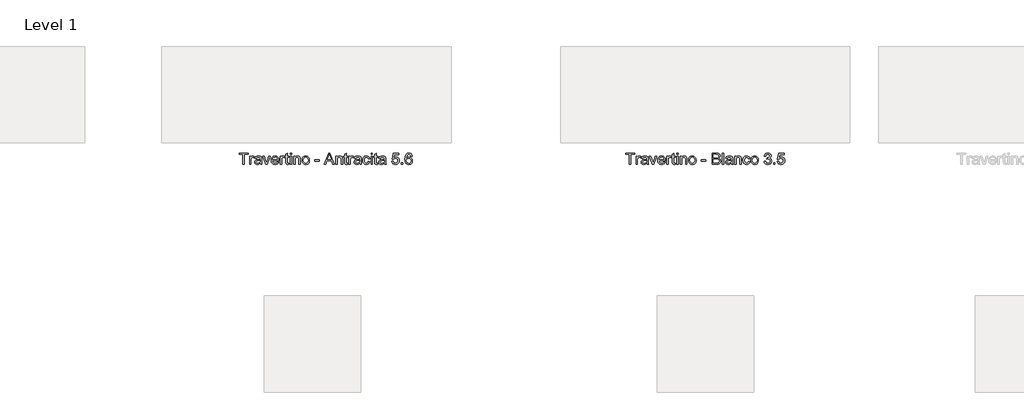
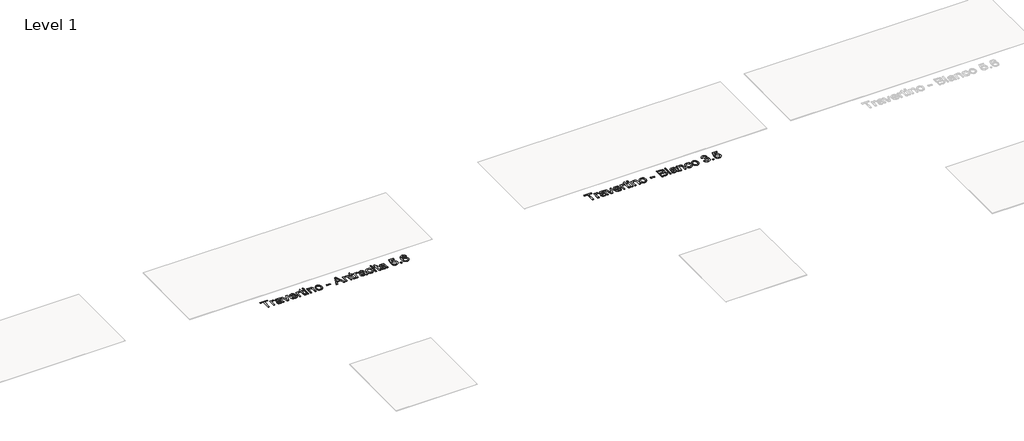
# One storey, part 17 of 80: 2 proxies.
"""IFC4 building model written with IfcOpenShell, lengths in millimetres."""

from ifc_helpers import new_model, si_unit, origin, origin_with_axes, place, context, project, spatial, polyline, outline, extrude, element, save

model = new_model("IFC4")

# Units and contexts
model_context = context("Model", 3, world=origin())
ifc_project = project(units=[si_unit("LENGTHUNIT", "METRE", prefix="MILLI")], contexts=[model_context])

# Site, building, storey
site = spatial("IfcSite", under=ifc_project)
building = spatial("IfcBuilding", under=site)
storey = spatial("IfcBuildingStorey", under=building, Name="Level 1", Elevation=0.0)

# Proxies
placement = place(None, origin())
element("IfcBuildingElementProxy", 1, Name="24\" Arial", ObjectType="24\" Arial", at=placement, inside=storey, context=model_context, shape_type="SweptSolid", body=[
    extrude(outline(polyline([(-23304.8256117, -7643.0201601), (-23304.8256117, -7539.6355447), (-23343.5948424, -7539.6355447), (-23343.5948424, -7524.8663139), (-23251.2871501, -7524.8663139), (-23251.2871501, -7539.6355447), (-23290.0563809, -7539.6355447), (-23290.0563809, -7643.0201601), (-23304.8256117, -7643.0201601)])), origin_with_axes(), (0.0, 0.0, 1.0), 2.0),
    extrude(outline(polyline([(-23236.5179193, -7643.0201601), (-23236.5179193, -7556.2509293), (-23223.5948424, -7556.2509293), (-23223.5948424, -7569.0874678), (-23214.4217655, -7557.2605447), (-23205.1909963, -7554.4047755), (-23190.3640732, -7558.9624678), (-23195.2967655, -7572.2028524), (-23205.6813809, -7569.1740062), (-23214.0323424, -7572.0874678), (-23219.3544578, -7580.1643908), (-23221.7486886, -7597.4143908), (-23221.7486886, -7643.0201601), (-23236.5179193, -7643.0201601)])), origin_with_axes(), (0.0, 0.0, 1.0), 2.0),
    extrude(outline(polyline([(-23125.7486886, -7631.943237), (-23140.070804, -7641.9528524), (-23155.8929193, -7644.8663139), (-23168.2354674, -7643.1139101), (-23177.3400347, -7637.8566985), (-23182.9542174, -7629.8735255), (-23184.8256117, -7619.943237), (-23181.9986886, -7608.2605447), (-23174.570804, -7599.7797755), (-23164.2294578, -7594.9336216), (-23151.4506117, -7592.7124678), (-23125.835227, -7587.6355447), (-23125.7486886, -7584.3470831), (-23129.8159963, -7573.443237), (-23146.1429193, -7569.1740062), (-23161.085227, -7572.0153524), (-23168.210227, -7582.0970831), (-23182.9794578, -7580.2509293), (-23176.5900347, -7565.8278524), (-23163.7246501, -7557.3759293), (-23144.2390732, -7554.4047755), (-23126.3400347, -7557.0297755), (-23116.2294578, -7563.6211216), (-23111.7006117, -7573.6451601), (-23110.9794578, -7586.568237), (-23110.9794578, -7604.943237), (-23110.2294578, -7630.6018908), (-23107.2871501, -7643.0201601), (-23122.0563809, -7643.0201601), (-23125.7486886, -7631.943237)]), holes=[polyline([(-23125.7486886, -7602.4047755), (-23149.5756117, -7606.9336216), (-23162.2823424, -7609.3278524), (-23168.0371501, -7613.2220831), (-23170.0563809, -7618.9047755), (-23165.6573424, -7626.8951601), (-23152.7486886, -7630.0970831), (-23137.8063809, -7626.5634293), (-23128.1717655, -7618.0105447), (-23125.835227, -7606.5874678), (-23125.7486886, -7602.4047755)])]), origin_with_axes(), (0.0, 0.0, 1.0), 2.0),
    extrude(outline(polyline([(-23069.383304, -7643.0201601), (-23099.9025347, -7556.2509293), (-23084.2679193, -7556.2509293), (-23065.7775347, -7608.2316985), (-23060.210227, -7625.7124678), (-23054.758304, -7609.2124678), (-23036.1525347, -7556.2509293), (-23020.5179193, -7556.2509293), (-23050.6621501, -7643.0201601), (-23069.383304, -7643.0201601)])), origin_with_axes(), (0.0, 0.0, 1.0), 2.0),
    extrude(outline(polyline([(-22946.8448424, -7617.1740062), (-22932.3640732, -7619.0201601), (-22937.5816213, -7629.9312178), (-22945.9073424, -7638.0874678), (-22957.1537367, -7643.1716024), (-22971.133304, -7644.8663139), (-22988.4626309, -7641.9420351), (-23001.7967655, -7633.1691985), (-23010.2991693, -7619.1175158), (-23013.133304, -7600.3566985), (-23010.2703232, -7580.9648716), (-23001.6813809, -7566.4624678), (-22988.5275347, -7557.4191985), (-22971.9698424, -7554.4047755), (-22955.9277751, -7557.411987), (-22943.1092655, -7566.4336216), (-22934.7042174, -7580.9071793), (-22931.9025347, -7600.2701601), (-22931.9890732, -7604.2509293), (-22998.3640732, -7604.2509293), (-22995.8075828, -7615.3062178), (-22989.8688809, -7623.4336216), (-22981.2979674, -7628.4312178), (-22970.8448424, -7630.0970831), (-22956.3640732, -7627.0105447), (-22946.8448424, -7617.1740062)]), holes=[polyline([(-22998.3640732, -7589.4816985), (-22946.6717655, -7589.4816985), (-22952.585227, -7576.0970831), (-22961.195804, -7570.9047755), (-22972.0275347, -7569.1740062), (-22990.2150347, -7574.6980447), (-22995.9373905, -7581.1559774), (-22998.3640732, -7589.4816985)])]), origin_with_axes(), (0.0, 0.0, 1.0), 2.0),
    extrude(outline(polyline([(-22917.133304, -7643.0201601), (-22917.133304, -7556.2509293), (-22904.210227, -7556.2509293), (-22904.210227, -7569.0874678), (-22895.0371501, -7557.2605447), (-22885.8063809, -7554.4047755), (-22870.9794578, -7558.9624678), (-22875.9121501, -7572.2028524), (-22886.2967655, -7569.1740062), (-22894.647727, -7572.0874678), (-22899.9698424, -7580.1643908), (-22902.3640732, -7597.4143908), (-22902.3640732, -7643.0201601), (-22917.133304, -7643.0201601)])), origin_with_axes(), (0.0, 0.0, 1.0), 2.0),
    extrude(outline(polyline([(-22830.3640732, -7630.7028524), (-22828.5179193, -7643.4528524), (-22839.5659963, -7644.8663139), (-22851.9409963, -7642.4143908), (-22858.1140732, -7635.9816985), (-22859.9025347, -7619.2220831), (-22859.9025347, -7571.0201601), (-22870.9794578, -7571.0201601), (-22870.9794578, -7556.2509293), (-22859.9025347, -7556.2509293), (-22859.9025347, -7535.1643908), (-22845.133304, -7526.4816985), (-22845.133304, -7556.2509293), (-22830.3640732, -7556.2509293), (-22830.3640732, -7571.0201601), (-22845.133304, -7571.0201601), (-22845.133304, -7618.7893908), (-22844.3544578, -7626.4047755), (-22841.8304193, -7629.1018908), (-22836.7967655, -7630.0970831), (-22830.3640732, -7630.7028524)])), origin_with_axes(), (0.0, 0.0, 1.0), 2.0),
    extrude(outline(polyline([(-22815.5948424, -7539.6355447), (-22815.5948424, -7524.8663139), (-22800.8256117, -7524.8663139), (-22800.8256117, -7539.6355447), (-22815.5948424, -7539.6355447)])), origin_with_axes(), (0.0, 0.0, 1.0), 2.0),
    extrude(outline(polyline([(-22815.5948424, -7643.0201601), (-22815.5948424, -7556.2509293), (-22800.8256117, -7556.2509293), (-22800.8256117, -7643.0201601), (-22815.5948424, -7643.0201601)])), origin_with_axes(), (0.0, 0.0, 1.0), 2.0),
    extrude(outline(polyline([(-22778.6717655, -7643.0201601), (-22778.6717655, -7556.2509293), (-22763.9025347, -7556.2509293), (-22763.9025347, -7568.3663139), (-22752.6092655, -7557.8951601), (-22737.1909963, -7554.4047755), (-22723.2438809, -7557.2172755), (-22713.7246501, -7564.6018908), (-22709.2967655, -7575.4624678), (-22708.5179193, -7589.7413139), (-22708.5179193, -7643.0201601), (-22723.2871501, -7643.0201601), (-22723.2871501, -7591.7316985), (-22724.9890732, -7578.6643908), (-22731.0034963, -7571.755737), (-22741.1429193, -7569.1740062), (-22757.1669578, -7574.9720831), (-22762.2186405, -7583.3735255), (-22763.9025347, -7596.9816985), (-22763.9025347, -7643.0201601), (-22778.6717655, -7643.0201601)])), origin_with_axes(), (0.0, 0.0, 1.0), 2.0),
    extrude(outline(polyline([(-22691.9025347, -7599.6355447), (-22688.7078232, -7578.7148716), (-22679.1236886, -7564.0105447), (-22667.2823424, -7556.8062178), (-22653.1044578, -7554.4047755), (-22637.5888328, -7557.3290543), (-22625.195804, -7566.1018908), (-22617.0720059, -7580.0309774), (-22614.3640732, -7598.4240062), (-22619.1525347, -7624.7028524), (-22633.0996501, -7639.5730447), (-22653.1044578, -7644.8663139), (-22668.8075828, -7641.9528524), (-22681.1861886, -7633.2124678), (-22689.2234482, -7618.9913139), (-22691.9025347, -7599.6355447)]), holes=[polyline([(-22677.133304, -7599.6066985), (-22675.4241693, -7612.9732851), (-22670.2967655, -7622.4961216), (-22662.5804193, -7628.1968428), (-22653.1044578, -7630.0970831), (-22643.6717655, -7628.1860255), (-22635.9698424, -7622.4528524), (-22630.8424386, -7612.8038139), (-22629.133304, -7599.1451601), (-22630.8532559, -7586.1679966), (-22636.0131117, -7576.7749678), (-22643.725852, -7571.0742466), (-22653.1044578, -7569.1740062), (-22662.5804193, -7571.0670351), (-22670.2967655, -7576.7461216), (-22675.4241693, -7586.2473235), (-22677.133304, -7599.6066985)])]), origin_with_axes(), (0.0, 0.0, 1.0), 2.0),
    extrude(outline(polyline([(-22558.9794578, -7607.943237), (-22558.9794578, -7593.1740062), (-22512.8256117, -7593.1740062), (-22512.8256117, -7607.943237), (-22558.9794578, -7607.943237)])), origin_with_axes(), (0.0, 0.0, 1.0), 2.0),
    extrude(outline(polyline([(-22461.9698424, -7643.0201601), (-22414.8063809, -7524.8663139), (-22402.2294578, -7524.8663139), (-22355.0659963, -7643.0201601), (-22370.6717655, -7643.0201601), (-22384.2006117, -7606.0970831), (-22432.8640732, -7606.0970831), (-22446.3640732, -7643.0201601), (-22461.9698424, -7643.0201601)]), holes=[polyline([(-22427.4409963, -7591.3278524), (-22389.5948424, -7591.3278524), (-22400.2390732, -7562.2797755), (-22408.5179193, -7539.6355447), (-22415.8736886, -7559.7413139), (-22427.4409963, -7591.3278524)])]), origin_with_axes(), (0.0, 0.0, 1.0), 2.0),
    extrude(outline(polyline([(-22341.133304, -7643.0201601), (-22341.133304, -7556.2509293), (-22326.3640732, -7556.2509293), (-22326.3640732, -7568.3663139), (-22315.070804, -7557.8951601), (-22299.6525347, -7554.4047755), (-22285.7054193, -7557.2172755), (-22276.1861886, -7564.6018908), (-22271.758304, -7575.4624678), (-22270.9794578, -7589.7413139), (-22270.9794578, -7643.0201601), (-22285.7486886, -7643.0201601), (-22285.7486886, -7591.7316985), (-22287.4506117, -7578.6643908), (-22293.4650347, -7571.755737), (-22303.6044578, -7569.1740062), (-22319.6284963, -7574.9720831), (-22324.680179, -7583.3735255), (-22326.3640732, -7596.9816985), (-22326.3640732, -7643.0201601), (-22341.133304, -7643.0201601)])), origin_with_axes(), (0.0, 0.0, 1.0), 2.0),
    extrude(outline(polyline([(-22219.2871501, -7630.7028524), (-22217.4409963, -7643.4528524), (-22228.4890732, -7644.8663139), (-22240.8640732, -7642.4143908), (-22247.0371501, -7635.9816985), (-22248.8256117, -7619.2220831), (-22248.8256117, -7571.0201601), (-22259.9025347, -7571.0201601), (-22259.9025347, -7556.2509293), (-22248.8256117, -7556.2509293), (-22248.8256117, -7535.1643908), (-22234.0563809, -7526.4816985), (-22234.0563809, -7556.2509293), (-22219.2871501, -7556.2509293), (-22219.2871501, -7571.0201601), (-22234.0563809, -7571.0201601), (-22234.0563809, -7618.7893908), (-22233.2775347, -7626.4047755), (-22230.7534963, -7629.1018908), (-22225.7198424, -7630.0970831), (-22219.2871501, -7630.7028524)])), origin_with_axes(), (0.0, 0.0, 1.0), 2.0),
    extrude(outline(polyline([(-22204.5179193, -7643.0201601), (-22204.5179193, -7556.2509293), (-22191.5948424, -7556.2509293), (-22191.5948424, -7569.0874678), (-22182.4217655, -7557.2605447), (-22173.1909963, -7554.4047755), (-22158.3640732, -7558.9624678), (-22163.2967655, -7572.2028524), (-22173.6813809, -7569.1740062), (-22182.0323424, -7572.0874678), (-22187.3544578, -7580.1643908), (-22189.7486886, -7597.4143908), (-22189.7486886, -7643.0201601), (-22204.5179193, -7643.0201601)])), origin_with_axes(), (0.0, 0.0, 1.0), 2.0),
    extrude(outline(polyline([(-22093.7486886, -7631.943237), (-22108.070804, -7641.9528524), (-22123.8929193, -7644.8663139), (-22136.2354674, -7643.1139101), (-22145.3400347, -7637.8566985), (-22150.9542174, -7629.8735255), (-22152.8256117, -7619.943237), (-22149.9986886, -7608.2605447), (-22142.570804, -7599.7797755), (-22132.2294578, -7594.9336216), (-22119.4506117, -7592.7124678), (-22093.835227, -7587.6355447), (-22093.7486886, -7584.3470831), (-22097.8159963, -7573.443237), (-22114.1429193, -7569.1740062), (-22129.085227, -7572.0153524), (-22136.210227, -7582.0970831), (-22150.9794578, -7580.2509293), (-22144.5900347, -7565.8278524), (-22131.7246501, -7557.3759293), (-22112.2390732, -7554.4047755), (-22094.3400347, -7557.0297755), (-22084.2294578, -7563.6211216), (-22079.7006117, -7573.6451601), (-22078.9794578, -7586.568237), (-22078.9794578, -7604.943237), (-22078.2294578, -7630.6018908), (-22075.2871501, -7643.0201601), (-22090.0563809, -7643.0201601), (-22093.7486886, -7631.943237)]), holes=[polyline([(-22093.7486886, -7602.4047755), (-22117.5756117, -7606.9336216), (-22130.2823424, -7609.3278524), (-22136.0371501, -7613.2220831), (-22138.0563809, -7618.9047755), (-22133.6573424, -7626.8951601), (-22120.7486886, -7630.0970831), (-22105.8063809, -7626.5634293), (-22096.1717655, -7618.0105447), (-22093.835227, -7606.5874678), (-22093.7486886, -7602.4047755)])]), origin_with_axes(), (0.0, 0.0, 1.0), 2.0),
    extrude(outline(polyline([(-22003.2871501, -7611.6355447), (-21988.5179193, -7613.4816985), (-21992.6357078, -7626.6175158), (-22000.3736886, -7636.5441985), (-22011.0034963, -7642.7857851), (-22023.7967655, -7644.8663139), (-22039.507102, -7641.9636697), (-22051.7919578, -7633.255737), (-22059.7210443, -7619.1247274), (-22062.3640732, -7599.9528524), (-22057.8496501, -7575.4191985), (-22052.1525347, -7566.2208812), (-22044.0900347, -7559.6547755), (-22023.9986886, -7554.4047755), (-22011.5191213, -7556.2076601), (-22001.5419578, -7561.6163139), (-21994.3845059, -7570.3422755), (-21990.3640732, -7582.0970831), (-22005.133304, -7583.943237), (-22011.9842655, -7572.880737), (-22023.883304, -7569.1740062), (-22033.4277751, -7570.9985255), (-22041.0034963, -7576.4720831), (-22045.9470059, -7585.8903524), (-22047.5948424, -7599.5490062), (-22045.9830636, -7613.3915543), (-22041.147727, -7622.8422755), (-22033.7090251, -7628.2833812), (-22024.2871501, -7630.0970831), (-22010.3688809, -7625.568237), (-22003.2871501, -7611.6355447)])), origin_with_axes(), (0.0, 0.0, 1.0), 2.0),
    extrude(outline(polyline([(-21975.5948424, -7539.6355447), (-21975.5948424, -7524.8663139), (-21960.8256117, -7524.8663139), (-21960.8256117, -7539.6355447), (-21975.5948424, -7539.6355447)])), origin_with_axes(), (0.0, 0.0, 1.0), 2.0),
    extrude(outline(polyline([(-21975.5948424, -7643.0201601), (-21975.5948424, -7556.2509293), (-21960.8256117, -7556.2509293), (-21960.8256117, -7643.0201601), (-21975.5948424, -7643.0201601)])), origin_with_axes(), (0.0, 0.0, 1.0), 2.0),
    extrude(outline(polyline([(-21907.2871501, -7630.7028524), (-21905.4409963, -7643.4528524), (-21916.4890732, -7644.8663139), (-21928.8640732, -7642.4143908), (-21935.0371501, -7635.9816985), (-21936.8256117, -7619.2220831), (-21936.8256117, -7571.0201601), (-21947.9025347, -7571.0201601), (-21947.9025347, -7556.2509293), (-21936.8256117, -7556.2509293), (-21936.8256117, -7535.1643908), (-21922.0563809, -7526.4816985), (-21922.0563809, -7556.2509293), (-21907.2871501, -7556.2509293), (-21907.2871501, -7571.0201601), (-21922.0563809, -7571.0201601), (-21922.0563809, -7618.7893908), (-21921.2775347, -7626.4047755), (-21918.7534963, -7629.1018908), (-21913.7198424, -7630.0970831), (-21907.2871501, -7630.7028524)])), origin_with_axes(), (0.0, 0.0, 1.0), 2.0),
    extrude(outline(polyline([(-21837.133304, -7631.943237), (-21851.4554193, -7641.9528524), (-21867.2775347, -7644.8663139), (-21879.6200828, -7643.1139101), (-21888.7246501, -7637.8566985), (-21894.3388328, -7629.8735255), (-21896.210227, -7619.943237), (-21893.383304, -7608.2605447), (-21885.9554193, -7599.7797755), (-21875.6140732, -7594.9336216), (-21862.835227, -7592.7124678), (-21837.2198424, -7587.6355447), (-21837.133304, -7584.3470831), (-21841.2006117, -7573.443237), (-21857.5275347, -7569.1740062), (-21872.4698424, -7572.0153524), (-21879.5948424, -7582.0970831), (-21894.3640732, -7580.2509293), (-21887.9746501, -7565.8278524), (-21875.1092655, -7557.3759293), (-21855.6236886, -7554.4047755), (-21837.7246501, -7557.0297755), (-21827.6140732, -7563.6211216), (-21823.085227, -7573.6451601), (-21822.3640732, -7586.568237), (-21822.3640732, -7604.943237), (-21821.6140732, -7630.6018908), (-21818.6717655, -7643.0201601), (-21833.4409963, -7643.0201601), (-21837.133304, -7631.943237)]), holes=[polyline([(-21837.133304, -7602.4047755), (-21860.960227, -7606.9336216), (-21873.6669578, -7609.3278524), (-21879.4217655, -7613.2220831), (-21881.4409963, -7618.9047755), (-21877.0419578, -7626.8951601), (-21864.133304, -7630.0970831), (-21849.1909963, -7626.5634293), (-21839.5563809, -7618.0105447), (-21837.2198424, -7606.5874678), (-21837.133304, -7602.4047755)])]), origin_with_axes(), (0.0, 0.0, 1.0), 2.0),
    extrude(outline(polyline([(-21759.5948424, -7611.6355447), (-21744.8256117, -7609.7893908), (-21737.383304, -7625.005737), (-21721.9506117, -7630.0970831), (-21711.3640732, -7628.3266505), (-21703.4313809, -7623.0153524), (-21698.477054, -7614.7761697), (-21696.8256117, -7604.2220831), (-21698.3724867, -7594.2845831), (-21703.0131117, -7586.6836216), (-21710.7835443, -7581.8591024), (-21721.7198424, -7580.2509293), (-21734.6861886, -7582.818237), (-21742.9794578, -7589.4816985), (-21757.7486886, -7587.6355447), (-21744.8256117, -7526.7124678), (-21687.5948424, -7526.7124678), (-21687.5948424, -7541.4816985), (-21732.883304, -7541.4816985), (-21739.2006117, -7574.0201601), (-21728.6501309, -7567.6163139), (-21717.5948424, -7565.4816985), (-21703.7955636, -7568.1283331), (-21692.3400347, -7576.068237), (-21684.6272943, -7588.1691985), (-21682.0563809, -7603.2990062), (-21684.3712847, -7618.068237), (-21691.3159963, -7630.7028524), (-21704.6140732, -7641.3254485), (-21722.008304, -7644.8663139), (-21736.5143136, -7642.5910735), (-21748.070804, -7635.7653524), (-21755.992679, -7625.1824197), (-21759.5948424, -7611.6355447)])), origin_with_axes(), (0.0, 0.0, 1.0), 2.0),
    extrude(outline(polyline([(-21661.7486886, -7643.0201601), (-21661.7486886, -7628.2509293), (-21646.9794578, -7628.2509293), (-21646.9794578, -7643.0201601), (-21661.7486886, -7643.0201601)])), origin_with_axes(), (0.0, 0.0, 1.0), 2.0),
    extrude(outline(polyline([(-21547.2871501, -7556.2509293), (-21562.0563809, -7558.0970831), (-21567.6525347, -7545.7797755), (-21574.352054, -7541.1716024), (-21582.4506117, -7539.6355447), (-21595.7775347, -7543.2124678), (-21605.8592655, -7556.6403524), (-21610.0563809, -7582.9624678), (-21597.0323424, -7571.1788139), (-21580.8929193, -7567.3278524), (-21567.2486886, -7569.9600639), (-21555.7967655, -7577.8566985), (-21548.0299386, -7589.9216024), (-21545.4409963, -7605.0586216), (-21550.3159963, -7625.4384293), (-21563.7294578, -7639.8615062), (-21583.085227, -7644.8663139), (-21599.8412367, -7641.5490062), (-21613.1861886, -7631.5970831), (-21621.9157559, -7614.0297755), (-21624.8256117, -7587.8663139), (-21621.5948424, -7558.4504485), (-21611.9025347, -7538.3374678), (-21598.6693617, -7528.2341024), (-21581.5275347, -7524.8663139), (-21568.5684001, -7526.9504485), (-21558.1909963, -7533.2028524), (-21550.9217655, -7543.1331408), (-21547.2871501, -7556.2509293)]), holes=[polyline([(-21610.0563809, -7604.8278524), (-21606.6381117, -7617.6211216), (-21597.5515732, -7626.9095831), (-21584.2390732, -7630.0970831), (-21574.492679, -7628.4456408), (-21566.8304193, -7623.4913139), (-21561.8652751, -7615.7028524), (-21560.210227, -7605.5490062), (-21561.8436405, -7595.802612), (-21566.7438809, -7588.3711216), (-21574.5359482, -7583.6655928), (-21584.8448424, -7582.0970831), (-21594.5768136, -7583.6655928), (-21602.7150347, -7588.3711216), (-21608.2210443, -7595.6223235), (-21610.0563809, -7604.8278524)])]), origin_with_axes(), (0.0, 0.0, 1.0), 2.0),
])
element("IfcBuildingElementProxy", 2, Name="24\" Arial", ObjectType="24\" Arial", at=placement, inside=storey, context=model_context, shape_type="SweptSolid", body=[
    extrude(outline(polyline([(-19292.9222617, -7643.0201601), (-19292.9222617, -7539.6355447), (-19331.6914925, -7539.6355447), (-19331.6914925, -7524.8663139), (-19239.3838002, -7524.8663139), (-19239.3838002, -7539.6355447), (-19278.153031, -7539.6355447), (-19278.153031, -7643.0201601), (-19292.9222617, -7643.0201601)])), origin_with_axes(), (0.0, 0.0, 1.0), 2.0),
    extrude(outline(polyline([(-19224.6145694, -7643.0201601), (-19224.6145694, -7556.2509293), (-19211.6914925, -7556.2509293), (-19211.6914925, -7569.0874678), (-19202.5184156, -7557.2605447), (-19193.2876464, -7554.4047755), (-19178.4607233, -7558.9624678), (-19183.3934156, -7572.2028524), (-19193.778031, -7569.1740062), (-19202.1289925, -7572.0874678), (-19207.4511079, -7580.1643908), (-19209.8453387, -7597.4143908), (-19209.8453387, -7643.0201601), (-19224.6145694, -7643.0201601)])), origin_with_axes(), (0.0, 0.0, 1.0), 2.0),
    extrude(outline(polyline([(-19113.8453387, -7631.943237), (-19128.1674541, -7641.9528524), (-19143.9895694, -7644.8663139), (-19156.3321175, -7643.1139101), (-19165.4366848, -7637.8566985), (-19171.0508675, -7629.8735255), (-19172.9222617, -7619.943237), (-19170.0953387, -7608.2605447), (-19162.6674541, -7599.7797755), (-19152.3261079, -7594.9336216), (-19139.5472617, -7592.7124678), (-19113.9318771, -7587.6355447), (-19113.8453387, -7584.3470831), (-19117.9126464, -7573.443237), (-19134.2395694, -7569.1740062), (-19149.1818771, -7572.0153524), (-19156.3068771, -7582.0970831), (-19171.0761079, -7580.2509293), (-19164.6866848, -7565.8278524), (-19151.8213002, -7557.3759293), (-19132.3357233, -7554.4047755), (-19114.4366848, -7557.0297755), (-19104.3261079, -7563.6211216), (-19099.7972617, -7573.6451601), (-19099.0761079, -7586.568237), (-19099.0761079, -7604.943237), (-19098.3261079, -7630.6018908), (-19095.3838002, -7643.0201601), (-19110.153031, -7643.0201601), (-19113.8453387, -7631.943237)]), holes=[polyline([(-19113.8453387, -7602.4047755), (-19137.6722617, -7606.9336216), (-19150.3789925, -7609.3278524), (-19156.1338002, -7613.2220831), (-19158.153031, -7618.9047755), (-19153.7539925, -7626.8951601), (-19140.8453387, -7630.0970831), (-19125.903031, -7626.5634293), (-19116.2684156, -7618.0105447), (-19113.9318771, -7606.5874678), (-19113.8453387, -7602.4047755)])]), origin_with_axes(), (0.0, 0.0, 1.0), 2.0),
    extrude(outline(polyline([(-19057.4799541, -7643.0201601), (-19087.9991848, -7556.2509293), (-19072.3645694, -7556.2509293), (-19053.8741848, -7608.2316985), (-19048.3068771, -7625.7124678), (-19042.8549541, -7609.2124678), (-19024.2491848, -7556.2509293), (-19008.6145694, -7556.2509293), (-19038.7588002, -7643.0201601), (-19057.4799541, -7643.0201601)])), origin_with_axes(), (0.0, 0.0, 1.0), 2.0),
    extrude(outline(polyline([(-18934.9414925, -7617.1740062), (-18920.4607233, -7619.0201601), (-18925.6782714, -7629.9312178), (-18934.0039925, -7638.0874678), (-18945.2503867, -7643.1716024), (-18959.2299541, -7644.8663139), (-18976.559281, -7641.9420351), (-18989.8934156, -7633.1691985), (-18998.3958194, -7619.1175158), (-19001.2299541, -7600.3566985), (-18998.3669733, -7580.9648716), (-18989.778031, -7566.4624678), (-18976.6241848, -7557.4191985), (-18960.0664925, -7554.4047755), (-18944.0244252, -7557.411987), (-18931.2059156, -7566.4336216), (-18922.8008675, -7580.9071793), (-18919.9991848, -7600.2701601), (-18920.0857233, -7604.2509293), (-18986.4607233, -7604.2509293), (-18983.9042329, -7615.3062178), (-18977.965531, -7623.4336216), (-18969.3946175, -7628.4312178), (-18958.9414925, -7630.0970831), (-18944.4607233, -7627.0105447), (-18934.9414925, -7617.1740062)]), holes=[polyline([(-18986.4607233, -7589.4816985), (-18934.7684156, -7589.4816985), (-18940.6818771, -7576.0970831), (-18949.2924541, -7570.9047755), (-18960.1241848, -7569.1740062), (-18978.3116848, -7574.6980447), (-18984.0340406, -7581.1559774), (-18986.4607233, -7589.4816985)])]), origin_with_axes(), (0.0, 0.0, 1.0), 2.0),
    extrude(outline(polyline([(-18905.2299541, -7643.0201601), (-18905.2299541, -7556.2509293), (-18892.3068771, -7556.2509293), (-18892.3068771, -7569.0874678), (-18883.1338002, -7557.2605447), (-18873.903031, -7554.4047755), (-18859.0761079, -7558.9624678), (-18864.0088002, -7572.2028524), (-18874.3934156, -7569.1740062), (-18882.7443771, -7572.0874678), (-18888.0664925, -7580.1643908), (-18890.4607233, -7597.4143908), (-18890.4607233, -7643.0201601), (-18905.2299541, -7643.0201601)])), origin_with_axes(), (0.0, 0.0, 1.0), 2.0),
    extrude(outline(polyline([(-18818.4607233, -7630.7028524), (-18816.6145694, -7643.4528524), (-18827.6626464, -7644.8663139), (-18840.0376464, -7642.4143908), (-18846.2107233, -7635.9816985), (-18847.9991848, -7619.2220831), (-18847.9991848, -7571.0201601), (-18859.0761079, -7571.0201601), (-18859.0761079, -7556.2509293), (-18847.9991848, -7556.2509293), (-18847.9991848, -7535.1643908), (-18833.2299541, -7526.4816985), (-18833.2299541, -7556.2509293), (-18818.4607233, -7556.2509293), (-18818.4607233, -7571.0201601), (-18833.2299541, -7571.0201601), (-18833.2299541, -7618.7893908), (-18832.4511079, -7626.4047755), (-18829.9270694, -7629.1018908), (-18824.8934156, -7630.0970831), (-18818.4607233, -7630.7028524)])), origin_with_axes(), (0.0, 0.0, 1.0), 2.0),
    extrude(outline(polyline([(-18803.6914925, -7539.6355447), (-18803.6914925, -7524.8663139), (-18788.9222617, -7524.8663139), (-18788.9222617, -7539.6355447), (-18803.6914925, -7539.6355447)])), origin_with_axes(), (0.0, 0.0, 1.0), 2.0),
    extrude(outline(polyline([(-18803.6914925, -7643.0201601), (-18803.6914925, -7556.2509293), (-18788.9222617, -7556.2509293), (-18788.9222617, -7643.0201601), (-18803.6914925, -7643.0201601)])), origin_with_axes(), (0.0, 0.0, 1.0), 2.0),
    extrude(outline(polyline([(-18766.7684156, -7643.0201601), (-18766.7684156, -7556.2509293), (-18751.9991848, -7556.2509293), (-18751.9991848, -7568.3663139), (-18740.7059156, -7557.8951601), (-18725.2876464, -7554.4047755), (-18711.340531, -7557.2172755), (-18701.8213002, -7564.6018908), (-18697.3934156, -7575.4624678), (-18696.6145694, -7589.7413139), (-18696.6145694, -7643.0201601), (-18711.3838002, -7643.0201601), (-18711.3838002, -7591.7316985), (-18713.0857233, -7578.6643908), (-18719.1001464, -7571.755737), (-18729.2395694, -7569.1740062), (-18745.2636079, -7574.9720831), (-18750.3152906, -7583.3735255), (-18751.9991848, -7596.9816985), (-18751.9991848, -7643.0201601), (-18766.7684156, -7643.0201601)])), origin_with_axes(), (0.0, 0.0, 1.0), 2.0),
    extrude(outline(polyline([(-18679.9991848, -7599.6355447), (-18676.8044733, -7578.7148716), (-18667.2203387, -7564.0105447), (-18655.3789925, -7556.8062178), (-18641.2011079, -7554.4047755), (-18625.6854829, -7557.3290543), (-18613.2924541, -7566.1018908), (-18605.168656, -7580.0309774), (-18602.4607233, -7598.4240062), (-18607.2491848, -7624.7028524), (-18621.1963002, -7639.5730447), (-18641.2011079, -7644.8663139), (-18656.9042329, -7641.9528524), (-18669.2828387, -7633.2124678), (-18677.3200983, -7618.9913139), (-18679.9991848, -7599.6355447)]), holes=[polyline([(-18665.2299541, -7599.6066985), (-18663.5208194, -7612.9732851), (-18658.3934156, -7622.4961216), (-18650.6770694, -7628.1968428), (-18641.2011079, -7630.0970831), (-18631.7684156, -7628.1860255), (-18624.0664925, -7622.4528524), (-18618.9390887, -7612.8038139), (-18617.2299541, -7599.1451601), (-18618.949906, -7586.1679966), (-18624.1097617, -7576.7749678), (-18631.8225021, -7571.0742466), (-18641.2011079, -7569.1740062), (-18650.6770694, -7571.0670351), (-18658.3934156, -7576.7461216), (-18663.5208194, -7586.2473235), (-18665.2299541, -7599.6066985)])]), origin_with_axes(), (0.0, 0.0, 1.0), 2.0),
    extrude(outline(polyline([(-18547.0761079, -7607.943237), (-18547.0761079, -7593.1740062), (-18500.9222617, -7593.1740062), (-18500.9222617, -7607.943237), (-18547.0761079, -7607.943237)])), origin_with_axes(), (0.0, 0.0, 1.0), 2.0),
    extrude(outline(polyline([(-18436.3068771, -7643.0201601), (-18436.3068771, -7524.8663139), (-18391.2203387, -7524.8663139), (-18369.1386079, -7528.3422755), (-18356.1001464, -7539.0297755), (-18351.3838002, -7554.1451601), (-18355.3501464, -7567.9480447), (-18367.3357233, -7578.4047755), (-18352.7828387, -7589.4240062), (-18347.6914925, -7607.7990062), (-18351.1674541, -7623.6788139), (-18359.778031, -7634.9865062), (-18372.6289925, -7640.9865062), (-18391.5664925, -7643.0201601), (-18436.3068771, -7643.0201601)]), holes=[polyline([(-18421.5376464, -7628.2509293), (-18391.2491848, -7628.2509293), (-18380.2876464, -7627.6740062), (-18371.0136079, -7624.4576601), (-18364.8693771, -7617.8951601), (-18362.4607233, -7607.943237), (-18365.2876464, -7596.4624678), (-18374.4463002, -7589.6115062), (-18392.6914925, -7587.6355447), (-18421.5376464, -7587.6355447), (-18421.5376464, -7628.2509293)]), polyline([(-18421.5376464, -7572.8663139), (-18394.5664925, -7572.8663139), (-18378.8164925, -7571.5970831), (-18369.340531, -7566.130737), (-18366.153031, -7556.5105447), (-18369.1241848, -7546.8759293), (-18377.6338002, -7541.1788139), (-18396.6145694, -7539.6355447), (-18421.5376464, -7539.6355447), (-18421.5376464, -7572.8663139)])]), origin_with_axes(), (0.0, 0.0, 1.0), 2.0),
    extrude(outline(polyline([(-18329.2299541, -7643.0201601), (-18329.2299541, -7524.8663139), (-18314.4607233, -7524.8663139), (-18314.4607233, -7643.0201601), (-18329.2299541, -7643.0201601)])), origin_with_axes(), (0.0, 0.0, 1.0), 2.0),
    extrude(outline(polyline([(-18236.9222617, -7631.943237), (-18251.2443771, -7641.9528524), (-18267.0664925, -7644.8663139), (-18279.4090406, -7643.1139101), (-18288.5136079, -7637.8566985), (-18294.1277906, -7629.8735255), (-18295.9991848, -7619.943237), (-18293.1722617, -7608.2605447), (-18285.7443771, -7599.7797755), (-18275.403031, -7594.9336216), (-18262.6241848, -7592.7124678), (-18237.0088002, -7587.6355447), (-18236.9222617, -7584.3470831), (-18240.9895694, -7573.443237), (-18257.3164925, -7569.1740062), (-18272.2588002, -7572.0153524), (-18279.3838002, -7582.0970831), (-18294.153031, -7580.2509293), (-18287.7636079, -7565.8278524), (-18274.8982233, -7557.3759293), (-18255.4126464, -7554.4047755), (-18237.5136079, -7557.0297755), (-18227.403031, -7563.6211216), (-18222.8741848, -7573.6451601), (-18222.153031, -7586.568237), (-18222.153031, -7604.943237), (-18221.403031, -7630.6018908), (-18218.4607233, -7643.0201601), (-18233.2299541, -7643.0201601), (-18236.9222617, -7631.943237)]), holes=[polyline([(-18236.9222617, -7602.4047755), (-18260.7491848, -7606.9336216), (-18273.4559156, -7609.3278524), (-18279.2107233, -7613.2220831), (-18281.2299541, -7618.9047755), (-18276.8309156, -7626.8951601), (-18263.9222617, -7630.0970831), (-18248.9799541, -7626.5634293), (-18239.3453387, -7618.0105447), (-18237.0088002, -7606.5874678), (-18236.9222617, -7602.4047755)])]), origin_with_axes(), (0.0, 0.0, 1.0), 2.0),
    extrude(outline(polyline([(-18201.8453387, -7643.0201601), (-18201.8453387, -7556.2509293), (-18187.0761079, -7556.2509293), (-18187.0761079, -7568.3663139), (-18175.7828387, -7557.8951601), (-18160.3645694, -7554.4047755), (-18146.4174541, -7557.2172755), (-18136.8982233, -7564.6018908), (-18132.4703387, -7575.4624678), (-18131.6914925, -7589.7413139), (-18131.6914925, -7643.0201601), (-18146.4607233, -7643.0201601), (-18146.4607233, -7591.7316985), (-18148.1626464, -7578.6643908), (-18154.1770694, -7571.755737), (-18164.3164925, -7569.1740062), (-18180.340531, -7574.9720831), (-18185.3922137, -7583.3735255), (-18187.0761079, -7596.9816985), (-18187.0761079, -7643.0201601), (-18201.8453387, -7643.0201601)])), origin_with_axes(), (0.0, 0.0, 1.0), 2.0),
    extrude(outline(polyline([(-18055.9991848, -7611.6355447), (-18041.2299541, -7613.4816985), (-18045.3477425, -7626.6175158), (-18053.0857233, -7636.5441985), (-18063.715531, -7642.7857851), (-18076.5088002, -7644.8663139), (-18092.2191367, -7641.9636697), (-18104.5039925, -7633.255737), (-18112.4330791, -7619.1247274), (-18115.0761079, -7599.9528524), (-18110.5616848, -7575.4191985), (-18104.8645694, -7566.2208812), (-18096.8020694, -7559.6547755), (-18076.7107233, -7554.4047755), (-18064.231156, -7556.2076601), (-18054.2539925, -7561.6163139), (-18047.0965406, -7570.3422755), (-18043.0761079, -7582.0970831), (-18057.8453387, -7583.943237), (-18064.6963002, -7572.880737), (-18076.5953387, -7569.1740062), (-18086.1398098, -7570.9985255), (-18093.715531, -7576.4720831), (-18098.6590406, -7585.8903524), (-18100.3068771, -7599.5490062), (-18098.6950983, -7613.3915543), (-18093.8597617, -7622.8422755), (-18086.4210598, -7628.2833812), (-18076.9991848, -7630.0970831), (-18063.0809156, -7625.568237), (-18055.9991848, -7611.6355447)])), origin_with_axes(), (0.0, 0.0, 1.0), 2.0),
    extrude(outline(polyline([(-18031.9991848, -7599.6355447), (-18028.8044733, -7578.7148716), (-18019.2203387, -7564.0105447), (-18007.3789925, -7556.8062178), (-17993.2011079, -7554.4047755), (-17977.6854829, -7557.3290543), (-17965.2924541, -7566.1018908), (-17957.168656, -7580.0309774), (-17954.4607233, -7598.4240062), (-17959.2491848, -7624.7028524), (-17973.1963002, -7639.5730447), (-17993.2011079, -7644.8663139), (-18008.9042329, -7641.9528524), (-18021.2828387, -7633.2124678), (-18029.3200983, -7618.9913139), (-18031.9991848, -7599.6355447)]), holes=[polyline([(-18017.2299541, -7599.6066985), (-18015.5208194, -7612.9732851), (-18010.3934156, -7622.4961216), (-18002.6770694, -7628.1968428), (-17993.2011079, -7630.0970831), (-17983.7684156, -7628.1860255), (-17976.0664925, -7622.4528524), (-17970.9390887, -7612.8038139), (-17969.2299541, -7599.1451601), (-17970.949906, -7586.1679966), (-17976.1097617, -7576.7749678), (-17983.8225021, -7571.0742466), (-17993.2011079, -7569.1740062), (-18002.6770694, -7571.0670351), (-18010.3934156, -7576.7461216), (-18015.5208194, -7586.2473235), (-18017.2299541, -7599.6066985)])]), origin_with_axes(), (0.0, 0.0, 1.0), 2.0),
    extrude(outline(polyline([(-17895.3838002, -7611.6355447), (-17880.6145694, -7609.7893908), (-17872.465531, -7625.3374678), (-17857.2203387, -7630.0970831), (-17847.0953387, -7628.4600639), (-17839.278031, -7623.5490062), (-17834.2804348, -7616.2220831), (-17832.6145694, -7607.3374678), (-17834.2660117, -7598.9035735), (-17839.2203387, -7592.0634293), (-17846.7203387, -7587.5309774), (-17856.0088002, -7586.0201601), (-17866.3645694, -7587.6355447), (-17864.7203387, -7572.8663139), (-17862.3549541, -7573.0393908), (-17845.5953387, -7568.7990062), (-17840.0136079, -7563.4191985), (-17838.153031, -7555.7605447), (-17843.5472617, -7544.2076601), (-17857.4511079, -7539.6355447), (-17871.528031, -7544.2509293), (-17878.7684156, -7558.0970831), (-17893.5376464, -7556.2509293), (-17889.1890887, -7542.9889101), (-17881.4511079, -7533.0874678), (-17870.8645694, -7526.9216024), (-17857.9703387, -7524.8663139), (-17840.1578387, -7528.9191985), (-17827.6963002, -7539.9961216), (-17823.3838002, -7554.8951601), (-17827.4799541, -7568.5105447), (-17839.5953387, -7578.2893908), (-17830.3501464, -7582.0249678), (-17823.4991848, -7588.3855447), (-17819.2588002, -7597.0249678), (-17817.8453387, -7607.5970831), (-17820.6722617, -7621.9913139), (-17829.153031, -7634.0201601), (-17841.9535117, -7642.1547755), (-17857.7395694, -7644.8663139), (-17872.0184156, -7642.5514101), (-17883.6434156, -7635.6066985), (-17891.7275502, -7624.9841024), (-17895.3838002, -7611.6355447)])), origin_with_axes(), (0.0, 0.0, 1.0), 2.0),
    extrude(outline(polyline([(-17797.5376464, -7643.0201601), (-17797.5376464, -7628.2509293), (-17782.7684156, -7628.2509293), (-17782.7684156, -7643.0201601), (-17797.5376464, -7643.0201601)])), origin_with_axes(), (0.0, 0.0, 1.0), 2.0),
    extrude(outline(polyline([(-17758.7684156, -7611.6355447), (-17743.9991848, -7609.7893908), (-17736.5568771, -7625.005737), (-17721.1241848, -7630.0970831), (-17710.5376464, -7628.3266505), (-17702.6049541, -7623.0153524), (-17697.6506271, -7614.7761697), (-17695.9991848, -7604.2220831), (-17697.5460598, -7594.2845831), (-17702.1866848, -7586.6836216), (-17709.9571175, -7581.8591024), (-17720.8934156, -7580.2509293), (-17733.8597617, -7582.818237), (-17742.153031, -7589.4816985), (-17756.9222617, -7587.6355447), (-17743.9991848, -7526.7124678), (-17686.7684156, -7526.7124678), (-17686.7684156, -7541.4816985), (-17732.0568771, -7541.4816985), (-17738.3741848, -7574.0201601), (-17727.8237041, -7567.6163139), (-17716.7684156, -7565.4816985), (-17702.9691367, -7568.1283331), (-17691.5136079, -7576.068237), (-17683.8008675, -7588.1691985), (-17681.2299541, -7603.2990062), (-17683.5448579, -7618.068237), (-17690.4895694, -7630.7028524), (-17703.7876464, -7641.3254485), (-17721.1818771, -7644.8663139), (-17735.6878867, -7642.5910735), (-17747.2443771, -7635.7653524), (-17755.1662521, -7625.1824197), (-17758.7684156, -7611.6355447)])), origin_with_axes(), (0.0, 0.0, 1.0), 2.0),
])

save(model, "model.ifc")
